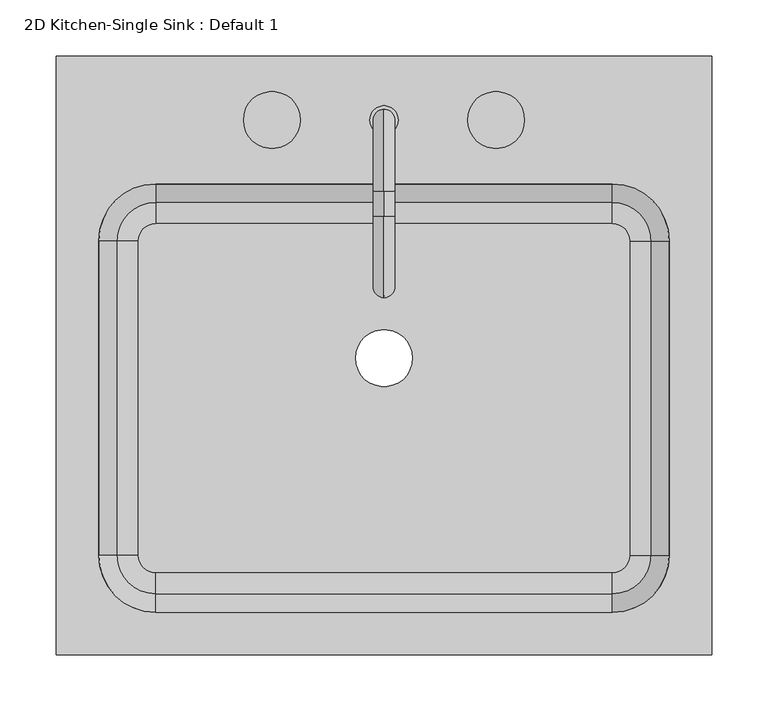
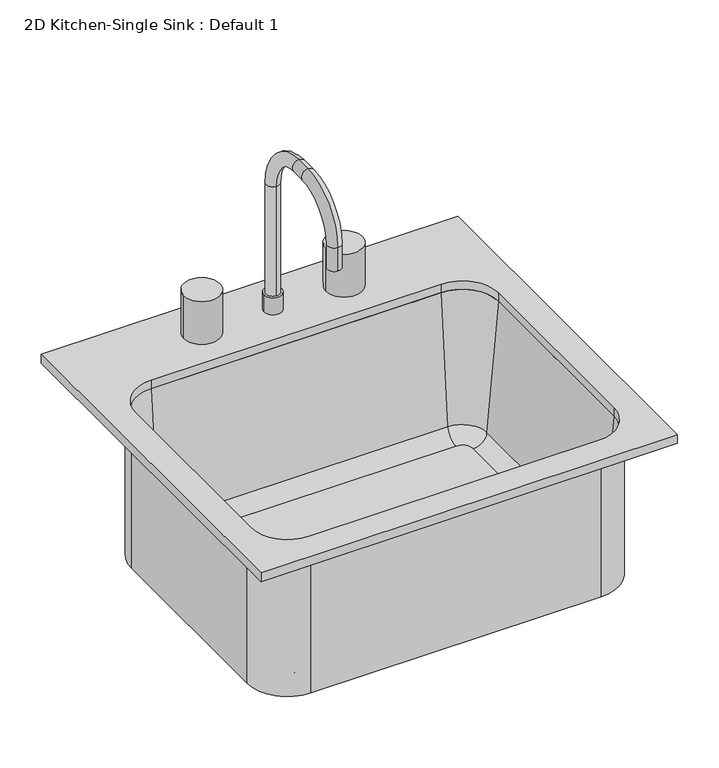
"""IFC4 building model written with IfcOpenShell, lengths in millimetres: flow terminal geometry, 2D Kitchen-Single Sink : Default 1."""

from ifc_helpers import new_model, si_unit, point, frame, frame_2d, origin, place, context, project, spatial, polyline, circle_curve, ellipse_curve, trimmed, segment, composite_curve, outline, extrude, source, transform, mapped, element, save
from ifc_brep_helpers import plane_surface, cylinder_surface, revolved_surface, advanced_brep


def flow_terminal_2d_kitchen_single_sink_default_1_dc3512ad(model_context):
    return source(origin(), model_context, "Body", "SolidModel", [
        advanced_brep(
        [(276.726598, 104.7454011, 546.1), (219.576598, 161.8954011, 546.1), (219.576598, 161.8954011, 762.0), (276.726598, 104.7454011, 762.0), (276.726598, -176.2545989, 546.1), (219.576598, -233.4045989, 546.1), (-188.1981168, -233.4045989, 546.1), (-245.3481168, -176.2545989, 546.1), (-245.3481168, 104.7454011, 546.1), (-188.1981168, 161.8954011, 546.1), (-9.7107594, 0.0, 546.1), (41.0892406, 0.0, 546.1), (234.8650162, 104.7454011, 555.625), (219.576598, 120.0338193, 555.625), (-188.1981168, 120.0338193, 555.625), (-203.486535, 104.7454011, 555.625), (-203.486535, -176.2545989, 555.625), (-188.1981168, -191.5430171, 555.625), (219.576598, -191.5430171, 555.625), (234.8650162, -176.2545989, 555.625), (-9.7107594, 0.0, 555.625), (41.0892406, 0.0, 555.625), (253.8425252, 104.7454011, 573.0146831), (219.576598, 139.0113283, 573.0146831), (270.376598, 104.7454011, 762.0), (219.576598, 155.5454011, 762.0), (276.726598, -176.2545989, 762.0), (253.8425252, -176.2545989, 573.0146831), (270.376598, -176.2545989, 762.0), (219.576598, -233.4045989, 762.0), (219.576598, -210.5205261, 573.0146831), (219.576598, -227.0545989, 762.0), (-188.1981168, -233.4045989, 762.0), (-188.1981168, -210.5205261, 573.0146831), (-188.1981168, -227.0545989, 762.0), (-245.3481168, -176.2545989, 762.0), (-222.464044, -176.2545989, 573.0146831), (-238.9981168, -176.2545989, 762.0), (-245.3481168, 104.7454011, 762.0), (-222.464044, 104.7454011, 573.0146831), (-238.9981168, 104.7454011, 762.0), (-188.1981168, 161.8954011, 762.0), (-188.1981168, 139.0113283, 573.0146831), (-188.1981168, 155.5454011, 762.0)],
        [
            (0, 1, circle_curve(frame((219.576598, 104.7454011, 546.1), z_axis=(0.0, 0.0, 1.0), x_axis=(0.0, 1.0, 0.0)), 57.15)),
            (1, 2),
            (2, 3, circle_curve(frame((219.576598, 104.7454011, 762.0), z_axis=(0.0, 0.0, -1.0), x_axis=(0.0, 1.0, 0.0)), 57.15)),
            (3, 0),
            (0, 4),
            (4, 5, circle_curve(frame((219.576598, -176.2545989, 546.1), z_axis=(0.0, 0.0, -1.0), x_axis=(1.0, 0.0, 0.0)), 57.15)),
            (5, 6),
            (6, 7, circle_curve(frame((-188.1981168, -176.2545989, 546.1), z_axis=(0.0, 0.0, -1.0), x_axis=(0.0, -1.0, 0.0)), 57.15)),
            (7, 8),
            (8, 9, circle_curve(frame((-188.1981168, 104.7454011, 546.1), z_axis=(0.0, 0.0, -1.0), x_axis=(-1.0, 0.0, 0.0)), 57.15)),
            (9, 1),
            (10, 11, circle_curve(frame((15.6892406, 0.0, 546.1), z_axis=(0.0, 0.0, 1.0), x_axis=(1.0, 0.0, 0.0)), 25.4)),
            (11, 10, circle_curve(frame((15.6892406, 0.0, 546.1), z_axis=(0.0, 0.0, 1.0), x_axis=(1.0, 0.0, 0.0)), 25.4)),
            (12, 13, circle_curve(frame((219.576598, 104.7454011, 555.625), z_axis=(0.0, 0.0, 1.0), x_axis=(0.0, 1.0, 0.0)), 15.2884182)),
            (13, 14),
            (14, 15, circle_curve(frame((-188.1981168, 104.7454011, 555.625), z_axis=(0.0, 0.0, 1.0), x_axis=(-1.0, 0.0, 0.0)), 15.2884182)),
            (15, 16),
            (16, 17, circle_curve(frame((-188.1981168, -176.2545989, 555.625), z_axis=(0.0, 0.0, 1.0), x_axis=(0.0, -1.0, 0.0)), 15.2884182)),
            (17, 18),
            (18, 19, circle_curve(frame((219.576598, -176.2545989, 555.625), z_axis=(0.0, 0.0, 1.0), x_axis=(1.0, 0.0, 0.0)), 15.2884182)),
            (19, 12),
            (20, 21, circle_curve(frame((15.6892406, 0.0, 555.625), z_axis=(0.0, 0.0, -1.0), x_axis=(1.0, 0.0, 0.0)), 25.4)),
            (21, 20, circle_curve(frame((15.6892406, 0.0, 555.625), z_axis=(0.0, 0.0, -1.0), x_axis=(1.0, 0.0, 0.0)), 25.4)),
            (12, 22, circle_curve(frame((234.8650162, 104.7454011, 574.675), z_axis=(0.0, -1.0, 0.0), x_axis=(1.0, 0.0, 0.0)), 19.05)),
            (22, 23, circle_curve(frame((219.576598, 104.7454011, 573.0146831), z_axis=(0.0, 0.0, 1.0), x_axis=(0.0, 1.0, 0.0)), 34.2659272)),
            (23, 13, circle_curve(frame((219.576598, 120.0338193, 574.675), z_axis=(-1.0, 0.0, 0.0), x_axis=(0.0, 1.0, 0.0)), 19.05)),
            (22, 24),
            (24, 25, circle_curve(frame((219.576598, 104.7454011, 762.0), z_axis=(0.0, 0.0, 1.0), x_axis=(0.0, 1.0, 0.0)), 50.8)),
            (25, 23),
            (2, 25),
            (24, 3),
            (3, 26),
            (26, 4),
            (19, 27, circle_curve(frame((234.8650162, -176.2545989, 574.675), z_axis=(0.0, -1.0, 0.0), x_axis=(1.0, 0.0, 0.0)), 19.05)),
            (27, 22),
            (27, 28),
            (28, 24),
            (28, 26),
            (26, 29, circle_curve(frame((219.576598, -176.2545989, 762.0), z_axis=(0.0, 0.0, -1.0), x_axis=(1.0, 0.0, 0.0)), 57.15)),
            (29, 5),
            (18, 30, circle_curve(frame((219.576598, -191.5430171, 574.675), z_axis=(-1.0, 0.0, 0.0), x_axis=(0.0, -1.0, 0.0)), 19.05)),
            (30, 27, circle_curve(frame((219.576598, -176.2545989, 573.0146831), z_axis=(0.0, 0.0, 1.0), x_axis=(1.0, 0.0, 0.0)), 34.2659272)),
            (30, 31),
            (31, 28, circle_curve(frame((219.576598, -176.2545989, 762.0), z_axis=(0.0, 0.0, 1.0), x_axis=(1.0, 0.0, 0.0)), 50.8)),
            (31, 29),
            (29, 32),
            (32, 6),
            (17, 33, circle_curve(frame((-188.1981168, -191.5430171, 574.675), z_axis=(-1.0, 0.0, 0.0), x_axis=(0.0, -1.0, 0.0)), 19.05)),
            (33, 30),
            (33, 34),
            (34, 31),
            (34, 32),
            (32, 35, circle_curve(frame((-188.1981168, -176.2545989, 762.0), z_axis=(0.0, 0.0, -1.0), x_axis=(0.0, -1.0, 0.0)), 57.15)),
            (35, 7),
            (16, 36, circle_curve(frame((-203.486535, -176.2545989, 574.675), z_axis=(0.0, 1.0, 0.0), x_axis=(-1.0, 0.0, 0.0)), 19.05)),
            (36, 33, circle_curve(frame((-188.1981168, -176.2545989, 573.0146831), z_axis=(0.0, 0.0, 1.0), x_axis=(0.0, -1.0, 0.0)), 34.2659272)),
            (36, 37),
            (37, 34, circle_curve(frame((-188.1981168, -176.2545989, 762.0), z_axis=(0.0, 0.0, 1.0), x_axis=(0.0, -1.0, 0.0)), 50.8)),
            (37, 35),
            (35, 38),
            (38, 8),
            (15, 39, circle_curve(frame((-203.486535, 104.7454011, 574.675), z_axis=(0.0, 1.0, 0.0), x_axis=(-1.0, 0.0, 0.0)), 19.05)),
            (39, 36),
            (39, 40),
            (40, 37),
            (40, 38),
            (38, 41, circle_curve(frame((-188.1981168, 104.7454011, 762.0), z_axis=(0.0, 0.0, -1.0), x_axis=(-1.0, 0.0, 0.0)), 57.15)),
            (41, 9),
            (14, 42, circle_curve(frame((-188.1981168, 120.0338193, 574.675), z_axis=(1.0, 0.0, 0.0), x_axis=(0.0, 1.0, 0.0)), 19.05)),
            (42, 39, circle_curve(frame((-188.1981168, 104.7454011, 573.0146831), z_axis=(0.0, 0.0, 1.0), x_axis=(-1.0, 0.0, 0.0)), 34.2659272)),
            (42, 43),
            (43, 40, circle_curve(frame((-188.1981168, 104.7454011, 762.0), z_axis=(0.0, 0.0, 1.0), x_axis=(-1.0, 0.0, 0.0)), 50.8)),
            (43, 41),
            (41, 2),
            (23, 42),
            (25, 43),
            (20, 10),
            (11, 21),
        ],
        [
            cylinder_surface(frame((219.576598, 104.7454011, 0.0), z_axis=(0.0, 0.0, -1.0), x_axis=(0.0, 1.0, 0.0)), 57.15),
            plane_surface(frame((219.576598, 104.7454011, 546.1), z_axis=(0.0, 0.0, -1.0), x_axis=(0.0, 1.0, 0.0))),
            plane_surface(frame((219.576598, 104.7454011, 555.625), z_axis=(0.0, 0.0, 1.0), x_axis=(0.0, 1.0, 0.0))),
            revolved_surface(trimmed(ellipse_curve(frame((219.576598, 120.0338193, 574.675), z_axis=(1.0, 0.0, 0.0), x_axis=(0.0, 1.0, 0.0)), 19.05, 19.05), [point((219.576598, 120.0338193, 555.625))], [point((219.576598, 139.0113283, 573.0146831))], True, "CARTESIAN"), (219.576598, 104.7454011, 0.0), (0.0, 0.0, -1.0)),
            revolved_surface(polyline([(219.576598, 139.0113283, 573.0146831), (219.576598, 155.5454011, 762.0)]), (219.576598, 104.7454011, 0.0), (0.0, 0.0, -1.0)),
            plane_surface(frame((219.576598, 104.7454011, 762.0), z_axis=(0.0, 0.0, 1.0), x_axis=(0.0, 1.0, 0.0))),
            plane_surface(frame((276.726598, 104.7454011, 762.0), z_axis=(1.0, 0.0, 0.0), x_axis=(0.0, -1.0, 0.0))),
            revolved_surface(polyline([(253.91501620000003, -176.25459890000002, 574.675), (253.91501620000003, 104.7454011, 574.675)]), (234.8650162, 104.7454011, 574.675), (0.0, -1.0, 0.0)),
            plane_surface(frame((253.8425252, 104.7454011, 573.0146831), z_axis=(-0.9961946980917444, 0.0, 0.08715574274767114), x_axis=(0.0, -1.0, 0.0))),
            plane_surface(frame((270.376598, 104.7454011, 762.0), z_axis=(0.0, 0.0, 1.0), x_axis=(0.0, -1.0, 0.0))),
            cylinder_surface(frame((219.576598, -176.2545989, 0.0), z_axis=(0.0, 0.0, -1.0), x_axis=(1.0, 0.0, 0.0)), 57.15),
            revolved_surface(trimmed(ellipse_curve(frame((234.8650162, -176.2545989, 574.675), z_axis=(0.0, -1.0, 0.0), x_axis=(1.0, 0.0, 0.0)), 19.05, 19.05), [point((234.8650162, -176.2545989, 555.625))], [point((253.8425252, -176.2545989, 573.0146831))], True, "CARTESIAN"), (219.576598, -176.2545989, 0.0), (0.0, 0.0, -1.0)),
            revolved_surface(polyline([(253.8425252, -176.2545989, 573.0146831), (270.376598, -176.2545989, 762.0)]), (219.576598, -176.2545989, 0.0), (0.0, 0.0, -1.0)),
            plane_surface(frame((219.576598, -176.2545989, 762.0), z_axis=(0.0, 0.0, 1.0), x_axis=(1.0, 0.0, 0.0))),
            plane_surface(frame((219.576598, -233.4045989, 762.0), z_axis=(0.0, -1.0, 0.0), x_axis=(-1.0, 0.0, 0.0))),
            revolved_surface(polyline([(-188.19811679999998, -210.5930171, 574.675), (219.576598, -210.5930171, 574.675)]), (219.576598, -191.5430171, 574.675), (-1.0, 0.0, 0.0)),
            plane_surface(frame((219.576598, -210.5205261, 573.0146831), z_axis=(0.0, 0.9961946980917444, 0.08715574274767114), x_axis=(-1.0, 0.0, 0.0))),
            plane_surface(frame((219.576598, -227.0545989, 762.0), z_axis=(0.0, 0.0, 1.0), x_axis=(-1.0, 0.0, 0.0))),
            cylinder_surface(frame((-188.1981168, -176.2545989, 0.0), z_axis=(0.0, 0.0, -1.0), x_axis=(0.0, -1.0, 0.0)), 57.15),
            revolved_surface(trimmed(ellipse_curve(frame((-188.1981168, -191.5430171, 574.675), z_axis=(-1.0, 0.0, 0.0), x_axis=(0.0, -1.0, 0.0)), 19.05, 19.05), [point((-188.1981168, -191.5430171, 555.625))], [point((-188.1981168, -210.5205261, 573.0146831))], True, "CARTESIAN"), (-188.1981168, -176.2545989, 0.0), (0.0, 0.0, -1.0)),
            revolved_surface(polyline([(-188.1981168, -210.5205261, 573.0146831), (-188.1981168, -227.0545989, 762.0)]), (-188.1981168, -176.2545989, 0.0), (0.0, 0.0, -1.0)),
            plane_surface(frame((-188.1981168, -176.2545989, 762.0), z_axis=(0.0, 0.0, 1.0), x_axis=(0.0, -1.0, 0.0))),
            plane_surface(frame((-245.3481168, -176.2545989, 762.0), z_axis=(-1.0, 0.0, 0.0), x_axis=(0.0, 1.0, 0.0))),
            revolved_surface(polyline([(-222.53653500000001, 104.74540110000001, 574.675), (-222.53653500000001, -176.2545989, 574.675)]), (-203.486535, -176.2545989, 574.675), (0.0, 1.0, 0.0)),
            plane_surface(frame((-222.464044, -176.2545989, 573.0146831), z_axis=(0.9961946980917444, 0.0, 0.08715574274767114), x_axis=(0.0, 1.0, 0.0))),
            plane_surface(frame((-238.9981168, -176.2545989, 762.0), z_axis=(0.0, 0.0, 1.0), x_axis=(0.0, 1.0, 0.0))),
            cylinder_surface(frame((-188.1981168, 104.7454011, 0.0), z_axis=(0.0, 0.0, -1.0), x_axis=(-1.0, 0.0, 0.0)), 57.15),
            revolved_surface(trimmed(ellipse_curve(frame((-203.486535, 104.7454011, 574.675), z_axis=(0.0, 1.0, 0.0), x_axis=(-1.0, 0.0, 0.0)), 19.05, 19.05), [point((-203.486535, 104.7454011, 555.625))], [point((-222.464044, 104.7454011, 573.0146831))], True, "CARTESIAN"), (-188.1981168, 104.7454011, 0.0), (0.0, 0.0, -1.0)),
            revolved_surface(polyline([(-222.464044, 104.7454011, 573.0146831), (-238.9981168, 104.7454011, 762.0)]), (-188.1981168, 104.7454011, 0.0), (0.0, 0.0, -1.0)),
            plane_surface(frame((-188.1981168, 104.7454011, 762.0), z_axis=(0.0, 0.0, 1.0), x_axis=(-1.0, 0.0, 0.0))),
            plane_surface(frame((-188.1981168, 161.8954011, 762.0), z_axis=(0.0, 1.0, 0.0), x_axis=(1.0, 0.0, 0.0))),
            revolved_surface(polyline([(219.57659799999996, 139.08381930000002, 574.675), (-188.1981168, 139.08381930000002, 574.675)]), (-188.1981168, 120.0338193, 574.675), (1.0, 0.0, 0.0)),
            plane_surface(frame((-188.1981168, 139.0113283, 573.0146831), z_axis=(0.0, -0.9961946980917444, 0.08715574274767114), x_axis=(1.0, 0.0, 0.0))),
            plane_surface(frame((-188.1981168, 155.5454011, 762.0), z_axis=(0.0, 0.0, 1.0), x_axis=(1.0, 0.0, 0.0))),
            revolved_surface(polyline([(41.0892406, 0.0, 546.1), (41.0892406, 0.0, 555.625)]), (15.6892406, 0.0, 0.0), (0.0, 0.0, -1.0)),
        ],
        [
            (0, [[1, 2, 3, 4]]),
            (1, [[-1, 5, 6, 7, 8, 9, 10, 11], [12, 13]]),
            (2, [[14, 15, 16, 17, 18, 19, 20, 21], [22, 23]]),
            (3, [[-14, 24, 25, 26]]),
            (4, [[-25, 27, 28, 29]]),
            (5, [[-3, 30, -28, 31]]),
            (6, [[-4, 32, 33, -5]]),
            (7, [[-24, -21, 34, 35]]),
            (8, [[-27, -35, 36, 37]]),
            (9, [[-31, -37, 38, -32]]),
            (10, [[-33, 39, 40, -6]]),
            (11, [[-34, -20, 41, 42]]),
            (12, [[-36, -42, 43, 44]]),
            (13, [[-38, -44, 45, -39]]),
            (14, [[-40, 46, 47, -7]]),
            (15, [[-41, -19, 48, 49]]),
            (16, [[-43, -49, 50, 51]]),
            (17, [[-45, -51, 52, -46]]),
            (18, [[-47, 53, 54, -8]]),
            (19, [[-48, -18, 55, 56]]),
            (20, [[-50, -56, 57, 58]]),
            (21, [[-52, -58, 59, -53]]),
            (22, [[-54, 60, 61, -9]]),
            (23, [[-55, -17, 62, 63]]),
            (24, [[-57, -63, 64, 65]]),
            (25, [[-59, -65, 66, -60]]),
            (26, [[-61, 67, 68, -10]]),
            (27, [[-62, -16, 69, 70]]),
            (28, [[-64, -70, 71, 72]]),
            (29, [[-66, -72, 73, -67]]),
            (30, [[-2, -11, -68, 74]]),
            (31, [[-26, 75, -69, -15]]),
            (32, [[-29, 76, -71, -75]]),
            (33, [[-30, -74, -73, -76]]),
            (34, [[-22, 77, -13, 78]]),
            (34, [[-23, -78, -12, -77]]),
        ],
    ),
        advanced_brep(
        [(2.9892406, 212.6954011, 800.1), (28.3892406, 212.6954011, 800.1), (15.6892406, 222.2204011, 800.1), (15.6892406, 203.1704011, 800.1), (2.9892406, 212.6954011, 774.7), (28.3892406, 212.6954011, 774.7), (15.6892406, 222.2204011, 962.025), (15.6892406, 203.1704011, 962.025), (15.6892406, 149.1954011, 1035.05), (15.6892406, 149.1954011, 1016.0), (15.6892406, 126.9704011, 1035.05), (15.6892406, 126.9704011, 1016.0), (15.6892406, 53.9454011, 962.025), (15.6892406, 72.9954011, 962.025), (15.6892406, 53.9454011, 927.1), (15.6892406, 72.9954011, 927.1)],
        [
            (0, 1, circle_curve(frame((15.6892406, 212.6954011, 800.1), z_axis=(0.0, 0.0, 1.0), x_axis=(1.0, 0.0, 0.0)), 12.7)),
            (1, 0, circle_curve(frame((15.6892406, 212.6954011, 800.1), z_axis=(0.0, 0.0, 1.0), x_axis=(1.0, 0.0, 0.0)), 12.7)),
            (2, 3, circle_curve(frame((15.6892406, 212.6954011, 800.1), z_axis=(0.0, 0.0, -1.0), x_axis=(0.0, -1.0, 0.0)), 9.525)),
            (3, 2, circle_curve(frame((15.6892406, 212.6954011, 800.1), z_axis=(0.0, 0.0, -1.0), x_axis=(0.0, -1.0, 0.0)), 9.525)),
            (4, 5, circle_curve(frame((15.6892406, 212.6954011, 774.7), z_axis=(0.0, 0.0, -1.0), x_axis=(1.0, 0.0, 0.0)), 12.7)),
            (5, 4, circle_curve(frame((15.6892406, 212.6954011, 774.7), z_axis=(0.0, 0.0, -1.0), x_axis=(1.0, 0.0, 0.0)), 12.7)),
            (0, 4),
            (5, 1),
            (6, 7, circle_curve(frame((15.6892406, 212.6954011, 962.025), z_axis=(0.0, 0.0, -1.0), x_axis=(0.0, -1.0, 0.0)), 9.525)),
            (7, 3),
            (2, 6),
            (7, 6, circle_curve(frame((15.6892406, 212.6954011, 962.025), z_axis=(0.0, 0.0, -1.0), x_axis=(0.0, -1.0, 0.0)), 9.525)),
            (6, 8, circle_curve(frame((15.6892406, 149.1954011, 962.025), z_axis=(1.0, 0.0, 0.0), x_axis=(0.0, 1.0, 0.0)), 73.025)),
            (8, 9, circle_curve(frame((15.6892406, 149.1954011, 1025.525), z_axis=(0.0, 1.0, 0.0), x_axis=(0.0, 0.0, -1.0)), 9.525)),
            (9, 7, circle_curve(frame((15.6892406, 149.1954011, 962.025), z_axis=(-1.0, 0.0, 0.0), x_axis=(0.0, 1.0, 0.0)), 53.975)),
            (9, 8, circle_curve(frame((15.6892406, 149.1954011, 1025.525), z_axis=(0.0, 1.0, 0.0), x_axis=(0.0, 0.0, -1.0)), 9.525)),
            (8, 10),
            (10, 11, circle_curve(frame((15.6892406, 126.9704011, 1025.525), z_axis=(0.0, 1.0, 0.0), x_axis=(0.0, 0.0, -1.0)), 9.525)),
            (11, 9),
            (11, 10, circle_curve(frame((15.6892406, 126.9704011, 1025.525), z_axis=(0.0, 1.0, 0.0), x_axis=(0.0, 0.0, -1.0)), 9.525)),
            (10, 12, circle_curve(frame((15.6892406, 126.9704011, 962.025), z_axis=(1.0, 0.0, 0.0), x_axis=(0.0, 0.0, 1.0)), 73.025)),
            (12, 13, circle_curve(frame((15.6892406, 63.4704011, 962.025), z_axis=(0.0, 0.0, 1.0), x_axis=(0.0, 1.0, 0.0)), 9.525)),
            (13, 11, circle_curve(frame((15.6892406, 126.9704011, 962.025), z_axis=(-1.0, 0.0, 0.0), x_axis=(0.0, 0.0, 1.0)), 53.975)),
            (13, 12, circle_curve(frame((15.6892406, 63.4704011, 962.025), z_axis=(0.0, 0.0, 1.0), x_axis=(0.0, 1.0, 0.0)), 9.525)),
            (14, 15, circle_curve(frame((15.6892406, 63.4704011, 927.1), z_axis=(0.0, 0.0, -1.0), x_axis=(0.0, 1.0, 0.0)), 9.525)),
            (15, 14, circle_curve(frame((15.6892406, 63.4704011, 927.1), z_axis=(0.0, 0.0, -1.0), x_axis=(0.0, 1.0, 0.0)), 9.525)),
            (12, 14),
            (15, 13),
        ],
        [
            plane_surface(frame((28.3892406, 212.6954011, 800.1), z_axis=(0.0, 0.0, 1.0), x_axis=(0.0, 1.0, 0.0))),
            plane_surface(frame((28.3892406, 212.6954011, 774.7), z_axis=(0.0, 0.0, -1.0), x_axis=(0.0, -1.0, 0.0))),
            cylinder_surface(frame((15.6892406, 212.6954011, 774.7), z_axis=(0.0, 0.0, 1.0), x_axis=(1.0, 0.0, 0.0)), 12.7),
            cylinder_surface(frame((15.6892406, 212.6954011, 774.7), z_axis=(0.0, 0.0, -1.0), x_axis=(0.0, -1.0, 0.0)), 9.525),
            revolved_surface(trimmed(ellipse_curve(frame((15.6892406, 212.6954011, 962.025), z_axis=(0.0, 0.0, -1.0), x_axis=(0.0, -1.0, 0.0)), 9.525, 9.525), [point((15.6892406, 222.2204011, 962.025))], [point((15.6892406, 203.1704011, 962.025))], True, "CARTESIAN"), (15.6892406, 149.1954011, 962.025), (1.0, 0.0, 0.0)),
            revolved_surface(trimmed(ellipse_curve(frame((15.6892406, 212.6954011, 962.025), z_axis=(0.0, 0.0, -1.0), x_axis=(0.0, -1.0, 0.0)), 9.525, 9.525), [point((15.6892406, 203.1704011, 962.025))], [point((15.6892406, 222.2204011, 962.025))], True, "CARTESIAN"), (15.6892406, 149.1954011, 962.025), (1.0, 0.0, 0.0)),
            cylinder_surface(frame((15.6892406, 149.1954011, 1025.525), z_axis=(0.0, 1.0, 0.0), x_axis=(0.0, 0.0, -1.0)), 9.525),
            revolved_surface(trimmed(ellipse_curve(frame((15.6892406, 126.9704011, 1025.525), z_axis=(0.0, 1.0, 0.0), x_axis=(0.0, 0.0, -1.0)), 9.525, 9.525), [point((15.6892406, 126.9704011, 1035.05))], [point((15.6892406, 126.9704011, 1016.0))], True, "CARTESIAN"), (15.6892406, 126.9704011, 962.025), (1.0, 0.0, 0.0)),
            revolved_surface(trimmed(ellipse_curve(frame((15.6892406, 126.9704011, 1025.525), z_axis=(0.0, 1.0, 0.0), x_axis=(0.0, 0.0, -1.0)), 9.525, 9.525), [point((15.6892406, 126.9704011, 1016.0))], [point((15.6892406, 126.9704011, 1035.05))], True, "CARTESIAN"), (15.6892406, 126.9704011, 962.025), (1.0, 0.0, 0.0)),
            plane_surface(frame((15.6892406, 53.9454011, 927.1), z_axis=(0.0, 0.0, -1.0), x_axis=(-1.0, 0.0, 0.0))),
            cylinder_surface(frame((15.6892406, 63.4704011, 962.025), z_axis=(0.0, 0.0, 1.0), x_axis=(0.0, 1.0, 0.0)), 9.525),
        ],
        [
            (0, [[1, 2], [3, 4]]),
            (1, [[5, 6]]),
            (2, [[-1, 7, -6, 8]]),
            (2, [[-2, -8, -5, -7]]),
            (3, [[9, 10, -3, 11]]),
            (3, [[12, -11, -4, -10]]),
            (4, [[-9, 13, 14, 15]]),
            (5, [[-12, -15, 16, -13]]),
            (6, [[-14, 17, 18, 19]]),
            (6, [[-16, -19, 20, -17]]),
            (7, [[-18, 21, 22, 23]]),
            (8, [[-20, -23, 24, -21]]),
            (9, [[25, 26]]),
            (10, [[-22, 27, -26, 28]]),
            (10, [[-24, -28, -25, -27]]),
        ],
    ),
        extrude(outline(composite_curve([segment(trimmed(circle_curve(frame_2d((-84.3107594, 212.6954011)), 25.4), [point((-109.7107594, 212.6954011))], [point((-58.9107594, 212.6954011))], False, "CARTESIAN"), True, "CONTINUOUS"), segment(trimmed(circle_curve(frame_2d((-84.3107594, 212.6954011)), 25.4), [point((-58.9107594, 212.6954011))], [point((-109.7107594, 212.6954011))], False, "CARTESIAN"), True, "CONTINUOUS")], self_intersect=False)), frame((0.0, 0.0, 774.7), z_axis=(0.0, 0.0, 1.0), x_axis=(1.0, 0.0, 0.0)), (0.0, 0.0, 1.0), 63.5),
        extrude(outline(composite_curve([segment(trimmed(circle_curve(frame_2d((115.6892406, 212.6954011)), 25.4), [point((90.2892406, 212.6954011))], [point((141.0892406, 212.6954011))], False, "CARTESIAN"), True, "CONTINUOUS"), segment(trimmed(circle_curve(frame_2d((115.6892406, 212.6954011)), 25.4), [point((141.0892406, 212.6954011))], [point((90.2892406, 212.6954011))], False, "CARTESIAN"), True, "CONTINUOUS")], self_intersect=False)), frame((0.0, 0.0, 774.7), z_axis=(0.0, 0.0, 1.0), x_axis=(1.0, 0.0, 0.0)), (0.0, 0.0, 1.0), 63.5),
        extrude(outline(polyline([(308.476598, 269.8454011), (308.476598, -265.1545989), (-277.0981168, -265.1545989), (-277.0981168, 269.8454011), (308.476598, 269.8454011)]), holes=[composite_curve([segment(polyline([(219.576598, 155.5454011), (-188.1981168, 155.5454011)]), True, "CONTINUOUS"), segment(trimmed(circle_curve(frame_2d((-188.1981168, 104.7454011)), 50.8), [point((-188.1981168, 155.5454011))], [point((-238.9981168, 104.7454011))], True, "CARTESIAN"), True, "CONTINUOUS"), segment(polyline([(-238.9981168, 104.7454011), (-238.9981168, -176.2545989)]), True, "CONTINUOUS"), segment(trimmed(circle_curve(frame_2d((-188.1981168, -176.2545989)), 50.8), [point((-238.9981168, -176.2545989))], [point((-188.1981168, -227.0545989))], True, "CARTESIAN"), True, "CONTINUOUS"), segment(polyline([(-188.1981168, -227.0545989), (219.576598, -227.0545989)]), True, "CONTINUOUS"), segment(trimmed(circle_curve(frame_2d((219.576598, -176.2545989)), 50.8), [point((219.576598, -227.0545989))], [point((270.376598, -176.2545989))], True, "CARTESIAN"), True, "CONTINUOUS"), segment(polyline([(270.376598, -176.2545989), (270.376598, 104.7454011)]), True, "CONTINUOUS"), segment(trimmed(circle_curve(frame_2d((219.576598, 104.7454011)), 50.8), [point((270.376598, 104.7454011))], [point((219.576598, 155.5454011))], True, "CARTESIAN"), True, "CONTINUOUS")], self_intersect=False)]), frame((0.0, 0.0, 762.0), z_axis=(0.0, 0.0, 1.0), x_axis=(1.0, 0.0, 0.0)), (0.0, 0.0, 1.0), 12.7),
    ])


if __name__ == "__main__":
    model = new_model("IFC4")
    model_context = context("Model", 3, world=origin())
    ifc_project = project(units=[si_unit("LENGTHUNIT", "METRE", prefix="MILLI")], contexts=[model_context])
    site = spatial("IfcSite", under=ifc_project)
    building = spatial("IfcBuilding", under=site)
    placement = place(None, origin())
    flow_terminal_2d_kitchen_single_sink_default_1_shape = flow_terminal_2d_kitchen_single_sink_default_1_dc3512ad(model_context)
    element("IfcFlowTerminal", 1, ObjectType="2D Kitchen-Single Sink : Default 1", at=placement, inside=building, context=model_context, shape_type="MappedRepresentation", body=[
        mapped(flow_terminal_2d_kitchen_single_sink_default_1_shape, transform((0.0, 0.0, 0.0), x_axis=(1.0, 0.0, 0.0), y_axis=(0.0, 1.0, 0.0), z_axis=(0.0, 0.0, 1.0))),
    ])
    save(model, "model.ifc")
